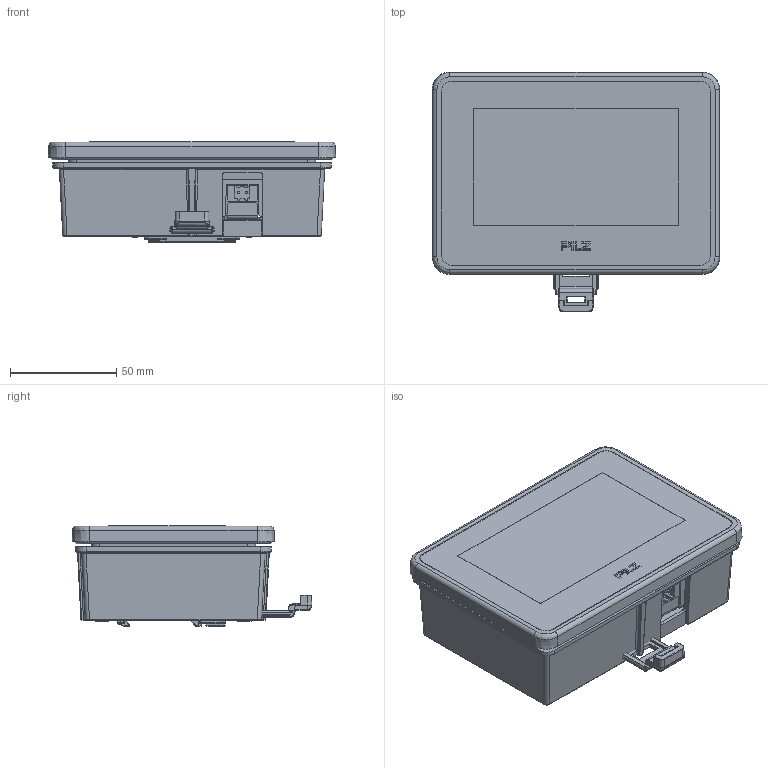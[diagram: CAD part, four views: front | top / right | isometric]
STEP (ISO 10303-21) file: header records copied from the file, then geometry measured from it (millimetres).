
FILE_DESCRIPTION((''),'2;1');
FILE_NAME('2026956_ASM','2018-07-25T',('rink'),(''),'PRO/ENGINEER BY PARAMETRIC TECHNOLOGY CORPORATION, 2015110','PRO/ENGINEER BY PARAMETRIC TECHNOLOGY CORPORATION, 2015110','');
FILE_SCHEMA(('AUTOMOTIVE_DESIGN { 1 0 10303 214 1 1 1 1 }'));
Products named in the file (4): 2026953; 2026954; 2026955; 2026956_ASM
Assembly tree (3 placements, depth 2):
  2026956_ASM
    2026953
    2026954
    2026955
Bounding box: 135 x 112.5 x 47.07 mm (x, y, z)
Volume: 91505.4 mm3; surface area: 157874.5 mm2
Topology: 5 solids, 13 shells, 6167 faces, 17118 edges, 10853 vertices
Faces by surface type: plane 3653, cylinder 1281, bspline 696, sphere 163, cone 158, torus 146, extrusion 70
Entity records: 328133 total; most frequent: CARTESIAN_POINT 99884, ORIENTED_EDGE 33864, DIRECTION 27668, PRESENTATION_STYLE_ASSIGNMENT 20612, STYLED_ITEM 17285, CURVE_STYLE 17117, EDGE_CURVE 17038, VECTOR 12430
